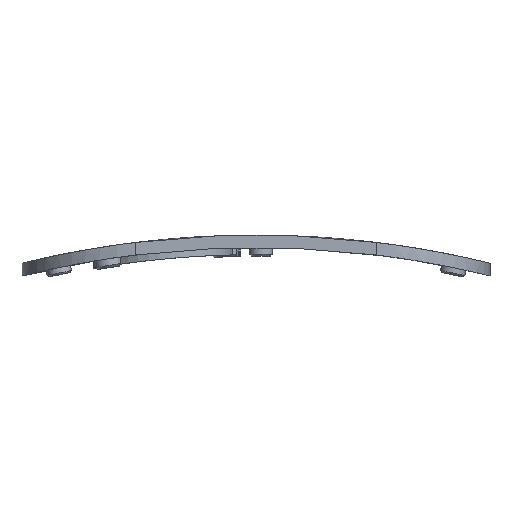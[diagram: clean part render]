
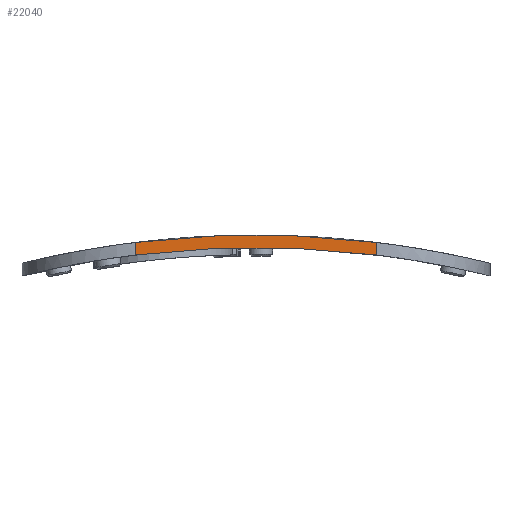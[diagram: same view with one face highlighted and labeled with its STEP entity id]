
A CAD part, front view. The second image highlights one B-rep face of the part: STEP entity #22040.
In plain terms, the highlighted planar face has unit normal (0, -1, 0).
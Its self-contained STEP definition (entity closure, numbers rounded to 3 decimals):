
#71 = CYLINDRICAL_SURFACE('',#72,111.371);
#72 = AXIS2_PLACEMENT_3D('',#73,#74,#75);
#73 = CARTESIAN_POINT('',(53.19,0.,-111.371));
#74 = DIRECTION('',(0.,-1.,0.));
#75 = DIRECTION('',(1.,0.,0.));
#98 = CYLINDRICAL_SURFACE('',#99,12.8);
#99 = AXIS2_PLACEMENT_3D('',#100,#101,#102);
#100 = CARTESIAN_POINT('',(39.64,8.32,2.));
#101 = DIRECTION('',(0.,0.,1.));
#102 = DIRECTION('',(1.,0.,0.));
#123 = CYLINDRICAL_SURFACE('',#124,109.971);
#124 = AXIS2_PLACEMENT_3D('',#125,#126,#127);
#125 = CARTESIAN_POINT('',(53.19,0.,-111.371));
#126 = DIRECTION('',(0.,-1.,0.));
#127 = DIRECTION('',(1.,0.,0.));
#280 = VERTEX_POINT('',#281);
#281 = CARTESIAN_POINT('',(39.64,-4.48,-2.238));
#407 = EDGE_CURVE('',#280,#408,#410,.T.);
#408 = VERTEX_POINT('',#409);
#409 = CARTESIAN_POINT('',(66.74,-4.48,-2.238));
#410 = SURFACE_CURVE('',#411,(#416,#423),.PCURVE_S1.);
#411 = CIRCLE('',#412,109.971);
#412 = AXIS2_PLACEMENT_3D('',#413,#414,#415);
#413 = CARTESIAN_POINT('',(53.19,-4.48,-111.371));
#414 = DIRECTION('',(-0.,1.,0.));
#415 = DIRECTION('',(1.,0.,0.));
#416 = PCURVE('',#123,#417);
#417 = DEFINITIONAL_REPRESENTATION('',(#418),#422);
#418 = LINE('',#419,#420);
#419 = CARTESIAN_POINT('',(6.283,4.48));
#420 = VECTOR('',#421,1.);
#421 = DIRECTION('',(-1.,-0.));
#422 = ( GEOMETRIC_REPRESENTATION_CONTEXT(2) 
PARAMETRIC_REPRESENTATION_CONTEXT() REPRESENTATION_CONTEXT('2D SPACE',''
  ) );
#423 = PCURVE('',#424,#429);
#424 = PLANE('',#425);
#425 = AXIS2_PLACEMENT_3D('',#426,#427,#428);
#426 = CARTESIAN_POINT('',(39.64,-4.48,2.));
#427 = DIRECTION('',(0.,-1.,0.));
#428 = DIRECTION('',(1.,0.,0.));
#429 = DEFINITIONAL_REPRESENTATION('',(#430),#438);
#430 = ( BOUNDED_CURVE() B_SPLINE_CURVE(2,(#431,#432,#433,#434,#435,#436
,#437),.UNSPECIFIED.,.T.,.F.) B_SPLINE_CURVE_WITH_KNOTS((1,2,2,2,2,1),(
    -2.094,0.,2.094,4.189,6.283,
8.378),.UNSPECIFIED.) CURVE() GEOMETRIC_REPRESENTATION_ITEM() 
RATIONAL_B_SPLINE_CURVE((1.,0.5,1.,0.5,1.,0.5,1.)) REPRESENTATION_ITEM(
  '') );
#431 = CARTESIAN_POINT('',(123.521,-113.371));
#432 = CARTESIAN_POINT('',(123.521,-303.848));
#433 = CARTESIAN_POINT('',(-41.436,-208.609));
#434 = CARTESIAN_POINT('',(-206.393,-113.371));
#435 = CARTESIAN_POINT('',(-41.436,-18.133));
#436 = CARTESIAN_POINT('',(123.521,77.105));
#437 = CARTESIAN_POINT('',(123.521,-113.371));
#438 = ( GEOMETRIC_REPRESENTATION_CONTEXT(2) 
PARAMETRIC_REPRESENTATION_CONTEXT() REPRESENTATION_CONTEXT('2D SPACE',''
  ) );
#489 = CYLINDRICAL_SURFACE('',#490,12.8);
#490 = AXIS2_PLACEMENT_3D('',#491,#492,#493);
#491 = CARTESIAN_POINT('',(66.74,8.32,2.));
#492 = DIRECTION('',(0.,0.,1.));
#493 = DIRECTION('',(1.,0.,0.));
#10861 = VERTEX_POINT('',#10862);
#10862 = CARTESIAN_POINT('',(39.64,-4.48,-0.827));
#10990 = EDGE_CURVE('',#10861,#280,#10991,.T.);
#10991 = SURFACE_CURVE('',#10992,(#10996,#11003),.PCURVE_S1.);
#10992 = LINE('',#10993,#10994);
#10993 = CARTESIAN_POINT('',(39.64,-4.48,2.));
#10994 = VECTOR('',#10995,1.);
#10995 = DIRECTION('',(-0.,-0.,-1.));
#10996 = PCURVE('',#98,#10997);
#10997 = DEFINITIONAL_REPRESENTATION('',(#10998),#11002);
#10998 = LINE('',#10999,#11000);
#10999 = CARTESIAN_POINT('',(4.712,0.));
#11000 = VECTOR('',#11001,1.);
#11001 = DIRECTION('',(0.,-1.));
#11002 = ( GEOMETRIC_REPRESENTATION_CONTEXT(2) 
PARAMETRIC_REPRESENTATION_CONTEXT() REPRESENTATION_CONTEXT('2D SPACE',''
  ) );
#11003 = PCURVE('',#424,#11004);
#11004 = DEFINITIONAL_REPRESENTATION('',(#11005),#11009);
#11005 = LINE('',#11006,#11007);
#11006 = CARTESIAN_POINT('',(0.,0.));
#11007 = VECTOR('',#11008,1.);
#11008 = DIRECTION('',(0.,-1.));
#11009 = ( GEOMETRIC_REPRESENTATION_CONTEXT(2) 
PARAMETRIC_REPRESENTATION_CONTEXT() REPRESENTATION_CONTEXT('2D SPACE',''
  ) );
#11015 = EDGE_CURVE('',#10861,#11016,#11018,.T.);
#11016 = VERTEX_POINT('',#11017);
#11017 = CARTESIAN_POINT('',(66.74,-4.48,-0.827));
#11018 = SURFACE_CURVE('',#11019,(#11024,#11031),.PCURVE_S1.);
#11019 = CIRCLE('',#11020,111.371);
#11020 = AXIS2_PLACEMENT_3D('',#11021,#11022,#11023);
#11021 = CARTESIAN_POINT('',(53.19,-4.48,-111.371));
#11022 = DIRECTION('',(-0.,1.,0.));
#11023 = DIRECTION('',(1.,0.,0.));
#11024 = PCURVE('',#71,#11025);
#11025 = DEFINITIONAL_REPRESENTATION('',(#11026),#11030);
#11026 = LINE('',#11027,#11028);
#11027 = CARTESIAN_POINT('',(6.283,4.48));
#11028 = VECTOR('',#11029,1.);
#11029 = DIRECTION('',(-1.,-0.));
#11030 = ( GEOMETRIC_REPRESENTATION_CONTEXT(2) 
PARAMETRIC_REPRESENTATION_CONTEXT() REPRESENTATION_CONTEXT('2D SPACE',''
  ) );
#11031 = PCURVE('',#424,#11032);
#11032 = DEFINITIONAL_REPRESENTATION('',(#11033),#11041);
#11033 = ( BOUNDED_CURVE() B_SPLINE_CURVE(2,(#11034,#11035,#11036,#11037
    ,#11038,#11039,#11040),.UNSPECIFIED.,.T.,.F.) 
B_SPLINE_CURVE_WITH_KNOTS((1,2,2,2,2,1),(-2.094,0.,
    2.094,4.189,6.283,8.378),
.UNSPECIFIED.) CURVE() GEOMETRIC_REPRESENTATION_ITEM() 
RATIONAL_B_SPLINE_CURVE((1.,0.5,1.,0.5,1.,0.5,1.)) REPRESENTATION_ITEM(
  '') );
#11034 = CARTESIAN_POINT('',(124.921,-113.371));
#11035 = CARTESIAN_POINT('',(124.921,-306.272));
#11036 = CARTESIAN_POINT('',(-42.136,-209.822));
#11037 = CARTESIAN_POINT('',(-209.193,-113.371));
#11038 = CARTESIAN_POINT('',(-42.136,-16.921));
#11039 = CARTESIAN_POINT('',(124.921,79.53));
#11040 = CARTESIAN_POINT('',(124.921,-113.371));
#11041 = ( GEOMETRIC_REPRESENTATION_CONTEXT(2) 
PARAMETRIC_REPRESENTATION_CONTEXT() REPRESENTATION_CONTEXT('2D SPACE',''
  ) );
#22040 = ADVANCED_FACE('',(#22041),#424,.T.);
#22041 = FACE_BOUND('',#22042,.T.);
#22042 = EDGE_LOOP('',(#22043,#22044,#22045,#22046));
#22043 = ORIENTED_EDGE('',*,*,#11015,.F.);
#22044 = ORIENTED_EDGE('',*,*,#10990,.T.);
#22045 = ORIENTED_EDGE('',*,*,#407,.T.);
#22046 = ORIENTED_EDGE('',*,*,#22047,.F.);
#22047 = EDGE_CURVE('',#11016,#408,#22048,.T.);
#22048 = SURFACE_CURVE('',#22049,(#22053,#22060),.PCURVE_S1.);
#22049 = LINE('',#22050,#22051);
#22050 = CARTESIAN_POINT('',(66.74,-4.48,2.));
#22051 = VECTOR('',#22052,1.);
#22052 = DIRECTION('',(-0.,-0.,-1.));
#22053 = PCURVE('',#424,#22054);
#22054 = DEFINITIONAL_REPRESENTATION('',(#22055),#22059);
#22055 = LINE('',#22056,#22057);
#22056 = CARTESIAN_POINT('',(27.1,0.));
#22057 = VECTOR('',#22058,1.);
#22058 = DIRECTION('',(0.,-1.));
#22059 = ( GEOMETRIC_REPRESENTATION_CONTEXT(2) 
PARAMETRIC_REPRESENTATION_CONTEXT() REPRESENTATION_CONTEXT('2D SPACE',''
  ) );
#22060 = PCURVE('',#489,#22061);
#22061 = DEFINITIONAL_REPRESENTATION('',(#22062),#22066);
#22062 = LINE('',#22063,#22064);
#22063 = CARTESIAN_POINT('',(4.712,0.));
#22064 = VECTOR('',#22065,1.);
#22065 = DIRECTION('',(0.,-1.));
#22066 = ( GEOMETRIC_REPRESENTATION_CONTEXT(2) 
PARAMETRIC_REPRESENTATION_CONTEXT() REPRESENTATION_CONTEXT('2D SPACE',''
  ) );
